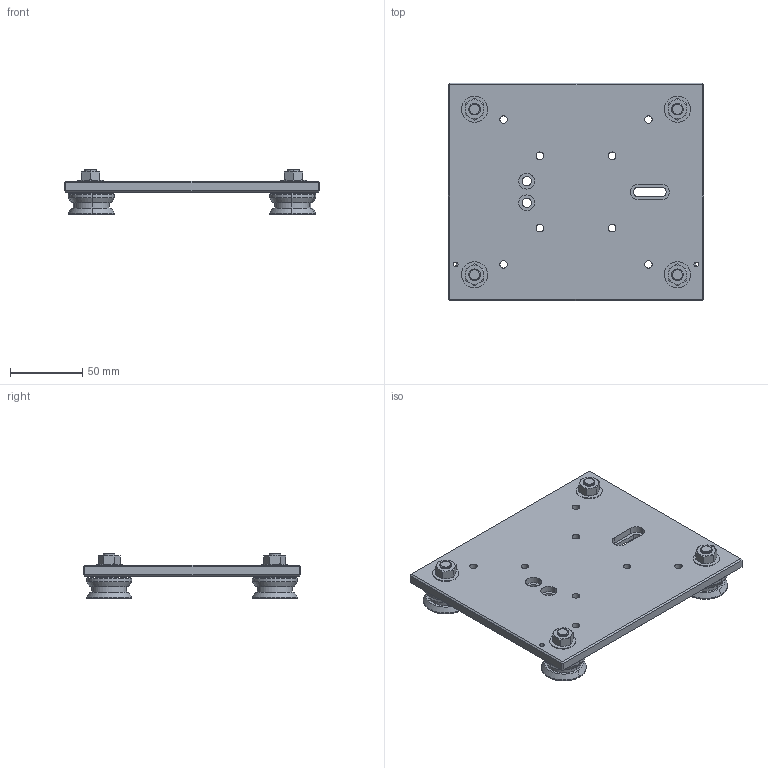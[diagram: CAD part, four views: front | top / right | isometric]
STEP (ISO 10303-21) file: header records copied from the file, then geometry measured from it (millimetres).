
FILE_DESCRIPTION (( 'STEP AP203' ), '1' );
FILE_NAME ('LW7 - ArtNr623045 0001.STEP', '2007-05-04T09:44:33', ( ' ' ), ( ' ' ), 'SwSTEP 2.0', 'SolidWorks 2006089', '' );
FILE_SCHEMA (( 'CONFIG_CONTROL_DESIGN' ));
Length unit declared in the file: millimetre
Products named in the file (1): LW7 - ArtNr623045 0001
Bounding box: 176 x 150 x 31.5 mm (x, y, z)
Volume: 238793.7 mm3; surface area: 77155.5 mm2
Topology: 13 solids, 13 shells, 331 faces, 722 edges, 444 vertices
Faces by surface type: plane 129, cylinder 114, cone 88
Entity records: 9521 total; most frequent: CARTESIAN_POINT 2042, DIRECTION 1606, ORIENTED_EDGE 1444, EDGE_CURVE 722, AXIS2_PLACEMENT_3D 648, VERTEX_POINT 444, EDGE_LOOP 408, FACE_OUTER_BOUND 331
